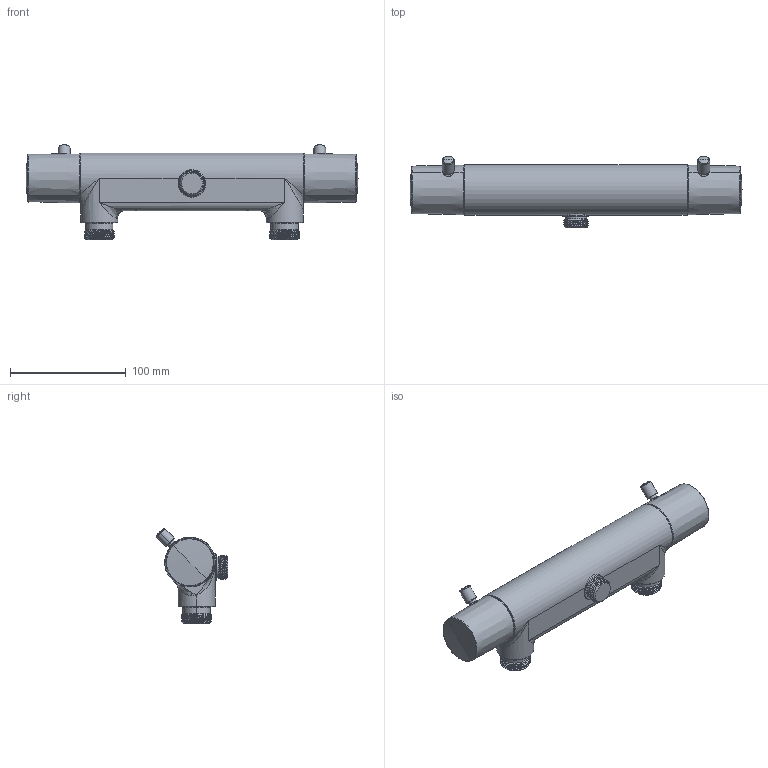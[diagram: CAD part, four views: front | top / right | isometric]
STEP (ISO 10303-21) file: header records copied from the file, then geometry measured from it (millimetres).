
FILE_DESCRIPTION((''),'2;1');
FILE_NAME('57471--00','2026-09-10T13:19:10',('simi1'),(''),'CREO PARAMETRIC BY PTC INC, 2022244','CREO PARAMETRIC BY PTC INC, 2022244','');
FILE_SCHEMA(('AUTOMOTIVE_DESIGN { 1 0 10303 214 1 1 1 1 }'));
Length unit declared in the file: millimetre
Products named in the file (1): 57471--00
Bounding box: 286.55 x 61.87 x 82.02 mm (x, y, z)
Surface area: 57561 mm2 (no closed solid volume)
Topology: 0 solids, 13 shells, 158 faces, 385 edges, 228 vertices
Faces by surface type: cylinder 46, bspline 36, cone 26, torus 24, plane 18, sphere 8
Entity records: 13131 total; most frequent: CARTESIAN_POINT 9358, ORIENTED_EDGE 709, DIRECTION 629, EDGE_CURVE 377, AXIS2_PLACEMENT_3D 270, VERTEX_POINT 228, EDGE_LOOP 158, FACE_OUTER_BOUND 158
